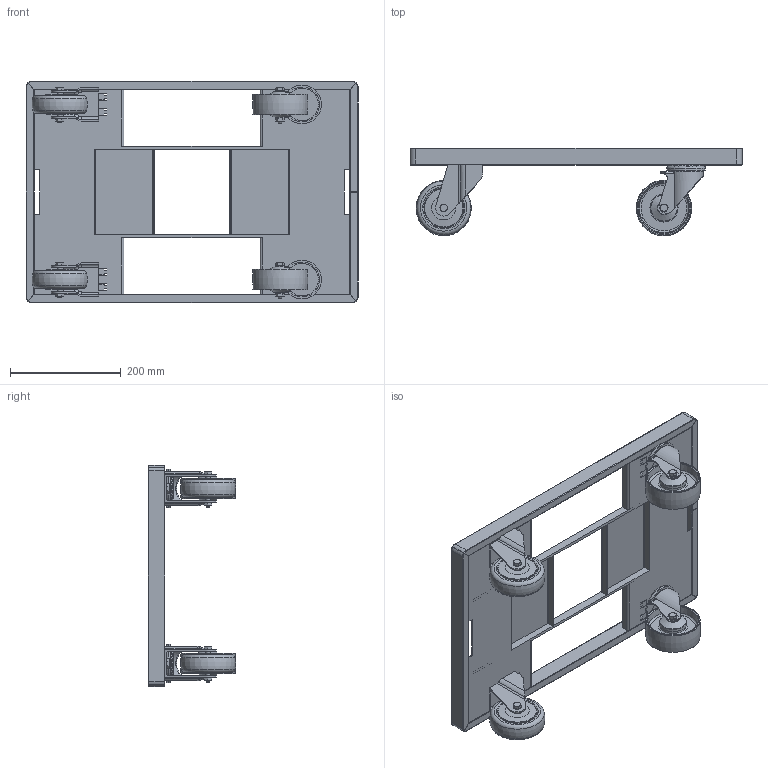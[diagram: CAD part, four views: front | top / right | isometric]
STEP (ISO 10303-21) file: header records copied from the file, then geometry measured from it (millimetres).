
FILE_DESCRIPTION(/* description */ ('STEP AP214'),/* implementation_level */ '2;1');
FILE_NAME(/* name */ '0207D1F2S2WD004',/* time_stamp */ '2026-01-21T14:41:27+01:00',/* author */ ('License CC BY-ND 4.0'),/* organization */ ('CADENAS'),/* preprocessor_version */ 'ST-DEVELOPER v20',/* originating_system */ 'PARTsolutions',/* authorisation */ ' ');
FILE_SCHEMA (('AUTOMOTIVE_DESIGN {1 0 10303 214 3 1 1}'));
Length unit declared in the file: millimetre
Products named in the file (7): 0207D1F2S2WD004; 0207D1F2S2WD004_1; 0207D1F2S2WD004_2; 0207D1F2S2WD004_4; 0207D1F2S2WD004_4b; 0207D1F2S2WD004_3; 0207D1F2S2WD004_3b
Assembly tree (13 placements, depth 2):
  0207D1F2S2WD004
    0207D1F2S2WD004_1
    0207D1F2S2WD004_2  x4
    0207D1F2S2WD004_4  x2
    0207D1F2S2WD004_4b  x2
    0207D1F2S2WD004_3  x2
    0207D1F2S2WD004_3b  x2
Bounding box: 600 x 158.02 x 400 mm (x, y, z)
Volume: 2213811 mm3; surface area: 759226.4 mm2
Topology: 13 solids, 13 shells, 716 faces, 1792 edges, 1136 vertices
Faces by surface type: plane 414, cylinder 142, torus 86, cone 74
Full cylindrical faces by diameter (mm): 8 x6, 8.5 x4, 10 x4, 12.5 x2, 13 x4, 20 x8, 27 x2, 59 x2, 63 x2, 70 x6
Entity records: 14718 total; most frequent: CARTESIAN_POINT 2744, DIRECTION 2284, ORIENTED_EDGE 2234, EDGE_CURVE 1117, AXIS2_PLACEMENT_3D 777, VERTEX_POINT 769, LINE 730, VECTOR 730
